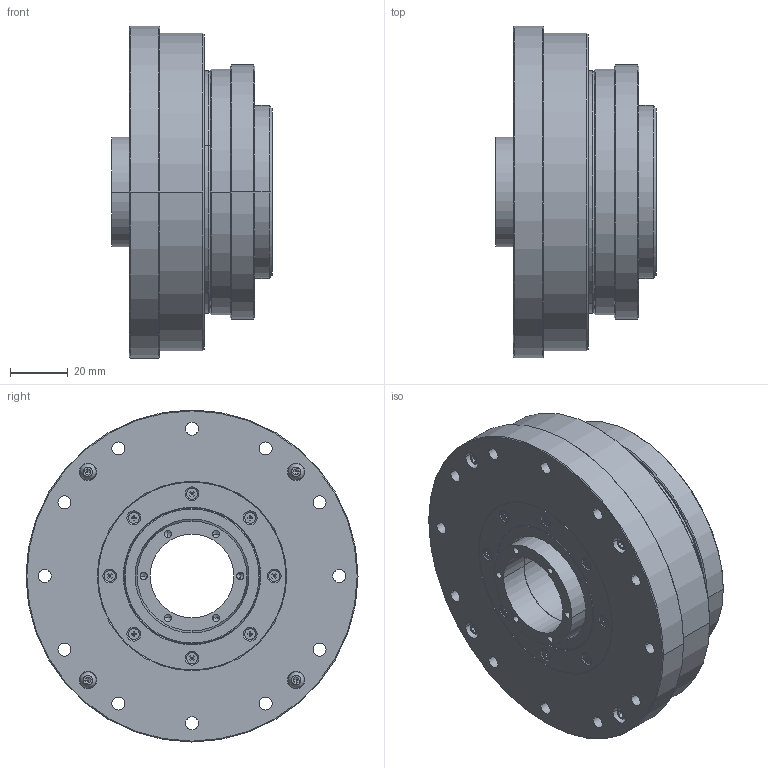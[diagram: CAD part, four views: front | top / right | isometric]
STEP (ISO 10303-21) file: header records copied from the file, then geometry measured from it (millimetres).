
FILE_DESCRIPTION (( 'STEP AP203' ), '1' );
FILE_NAME ('LHS-25-XXX-CL-III.step', '2025-01-07T06:19:09', ( '' ), ( '' ), 'SwSTEP 2.0', 'SolidWorks 2023', '' );
FILE_SCHEMA (( 'CONFIG_CONTROL_DESIGN' ));
Length unit declared in the file: metre
Products named in the file (1): LHS-25-XXX-CL-III
Bounding box: 55.5 x 115 x 115 mm (x, y, z)
Volume: 258906.4 mm3; surface area: 191493.7 mm2
Topology: 58 solids, 58 shells, 2032 faces, 5720 edges, 3539 vertices
Faces by surface type: bspline 645, cylinder 612, plane 459, cone 316
Entity records: 80239 total; most frequent: CARTESIAN_POINT 31701, ORIENTED_EDGE 11016, DIRECTION 9264, EDGE_CURVE 5508, AXIS2_PLACEMENT_3D 3916, VERTEX_POINT 3539, CIRCLE 2528, EDGE_LOOP 2411
